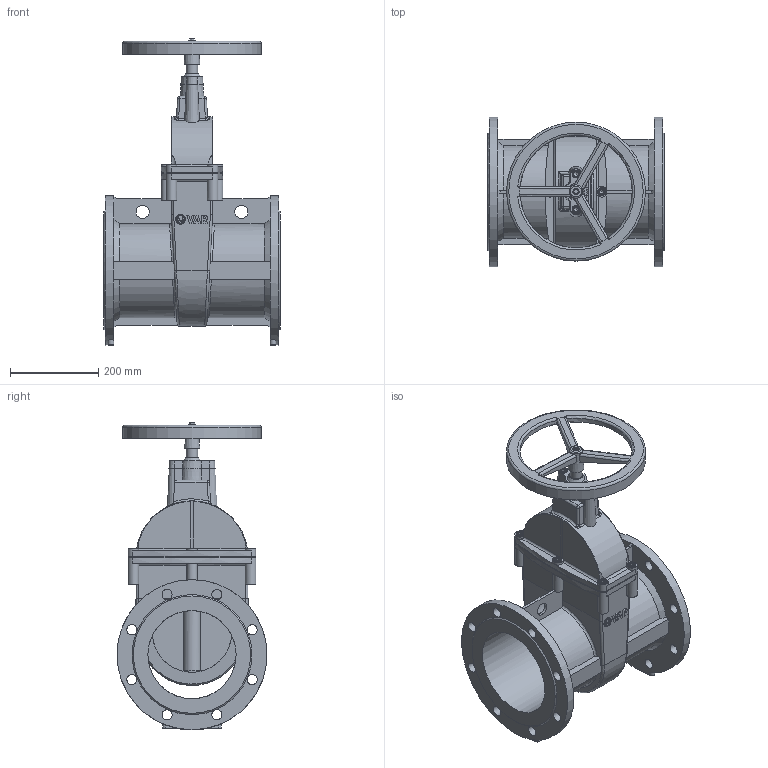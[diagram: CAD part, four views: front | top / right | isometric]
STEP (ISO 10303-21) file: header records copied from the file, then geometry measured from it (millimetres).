
FILE_DESCRIPTION(('STEP AP242'), '1');
FILE_NAME('青溻桄赅', '', ('UNSPECIFIED'), ('UNSPECIFIED'), 'C3D Converter', 'C3D Toolkit', '');
FILE_SCHEMA(('AP242_MANAGED_MODEL_BASED_3D_ENGINEERING_MIM_LF { 1 0 10303 442 1 1 4 }'));
Length unit declared in the file: millimetre
Assembly tree (17 placements, depth 2):
  (unnamed)
    (unnamed)
    (unnamed)
    (unnamed)
    (unnamed)
    (unnamed)  x2
    (unnamed)
    (unnamed)
    (unnamed)  x6
    (unnamed)  x2
    (unnamed)
Bounding box: 400 x 340 x 696.6 mm (x, y, z)
Volume: 8932656 mm3; surface area: 1870178.7 mm2
Topology: 20 solids, 20 shells, 949 faces, 2390 edges, 1523 vertices
Faces by surface type: plane 464, cylinder 194, extrusion 135, cone 69, bspline 66, torus 21
Full cylindrical faces by diameter (mm): 6 x3, 10 x8, 12 x30, 18 x16, 22.032 x1, 23 x16, 26 x7, 30 x2, 39.333 x4, 180 x2, 200 x4, 232 x4, 240 x1, 255 x1, 265 x1, 305 x1, 315 x1, 340 x2
Entity records: 42465 total; most frequent: CARTESIAN_POINT 21249, ORIENTED_EDGE 3898, DIRECTION 3113, EDGE_CURVE 1949, VERTEX_POINT 1328, EDGE_LOOP 1067, VECTOR 1039, AXIS2_PLACEMENT_3D 1037
